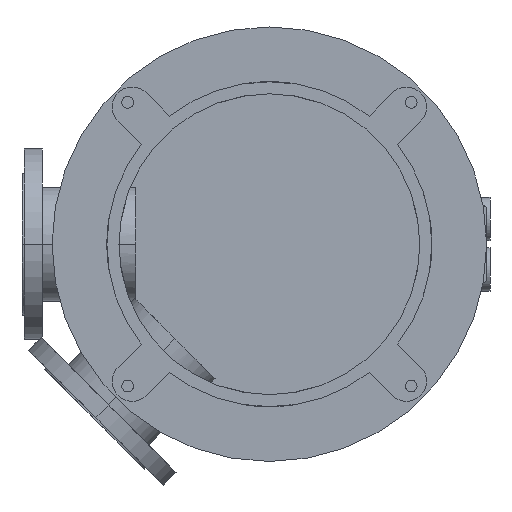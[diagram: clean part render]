
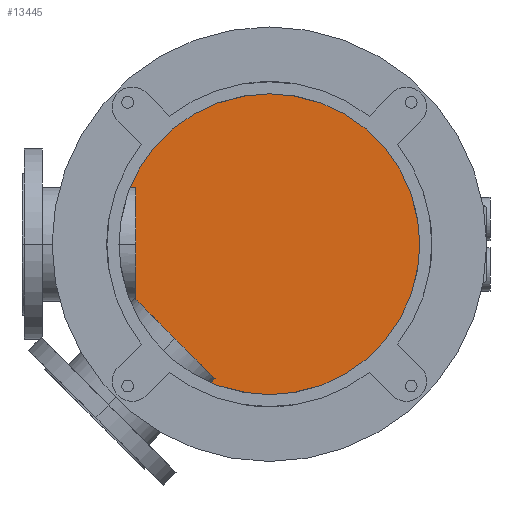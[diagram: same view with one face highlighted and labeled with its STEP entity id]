
A CAD part, front view. The second image highlights one B-rep face of the part: STEP entity #13445.
In plain terms, the highlighted planar face has unit normal (0, -1, 0).
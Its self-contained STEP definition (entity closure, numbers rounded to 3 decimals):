
#2811=CARTESIAN_POINT('',(0.,836.,0.));
#2812=DIRECTION('',(0.,-1.,0.));
#2813=DIRECTION('',(0.,0.,1.));
#2814=AXIS2_PLACEMENT_3D('',#2811,#2812,#2813);
#2985=CARTESIAN_POINT('',(0.,836.,0.));
#2986=DIRECTION('',(0.,-1.,0.));
#2987=DIRECTION('',(0.,0.,-1.));
#2988=AXIS2_PLACEMENT_3D('',#2985,#2986,#2987);
#8596=CARTESIAN_POINT('',(0.,836.,240.));
#8597=CARTESIAN_POINT('',(0.,836.,-240.));
#8598=VERTEX_POINT('',#8596);
#8599=VERTEX_POINT('',#8597);
#13435=CARTESIAN_POINT('',(0.,836.,0.));
#13436=DIRECTION('',(0.,1.,0.));
#13437=DIRECTION('',(0.,0.,-1.));
#13438=AXIS2_PLACEMENT_3D('',#13435,#13436,#13437);
#13439=PLANE('',#13438);
#13440=ORIENTED_EDGE('',*,*,#13413,.F.);
#13442=ORIENTED_EDGE('',*,*,#13441,.F.);
#13443=EDGE_LOOP('',(#13440,#13442));
#13444=FACE_OUTER_BOUND('',#13443,.F.);
#13445=ADVANCED_FACE('',(#13444),#13439,.F.);
#2815=CIRCLE('',#2814,240.);
#2989=CIRCLE('',#2988,240.);
#13413=EDGE_CURVE('',#8598,#8599,#2815,.T.);
#13441=EDGE_CURVE('',#8599,#8598,#2989,.T.);
